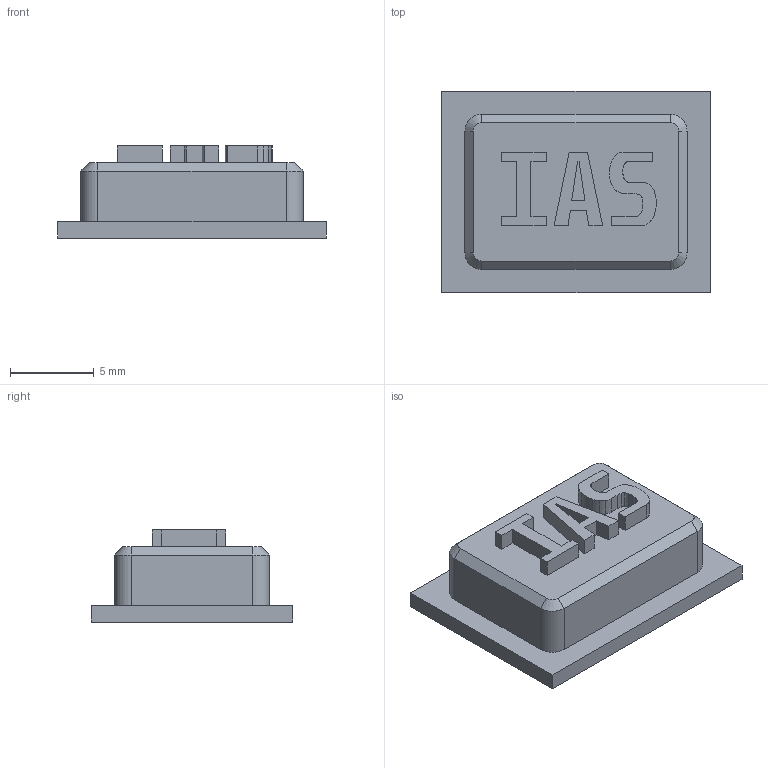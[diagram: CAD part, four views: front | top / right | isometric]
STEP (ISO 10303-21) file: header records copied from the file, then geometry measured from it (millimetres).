
FILE_DESCRIPTION(('FreeCAD Model'),'2;1');
FILE_NAME('E:/CAD Designs/Garmin/Final/CAD files/STEP/IAS.step', '2021-02-27T12:58:13',('Author'),(''), 'Open CASCADE STEP processor 7.3','FreeCAD','Unknown');
FILE_SCHEMA(('AUTOMOTIVE_DESIGN { 1 0 10303 214 1 1 1 1 }'));
Length unit declared in the file: millimetre
Products named in the file (2): Body; Extrude
Bounding box: 16 x 12 x 5.5 mm (x, y, z)
Volume: 631.1 mm3; surface area: 672.4 mm2
Topology: 4 solids, 4 shells, 91 faces, 238 edges, 156 vertices
Faces by surface type: plane 53, extrusion 30, cylinder 4, cone 4
Entity records: 5954 total; most frequent: CARTESIAN_POINT 1268, DIRECTION 759, VECTOR 604, LINE 574, ORIENTED_EDGE 476, PCURVE 476, DEFINITIONAL_REPRESENTATION 476, EDGE_CURVE 238
